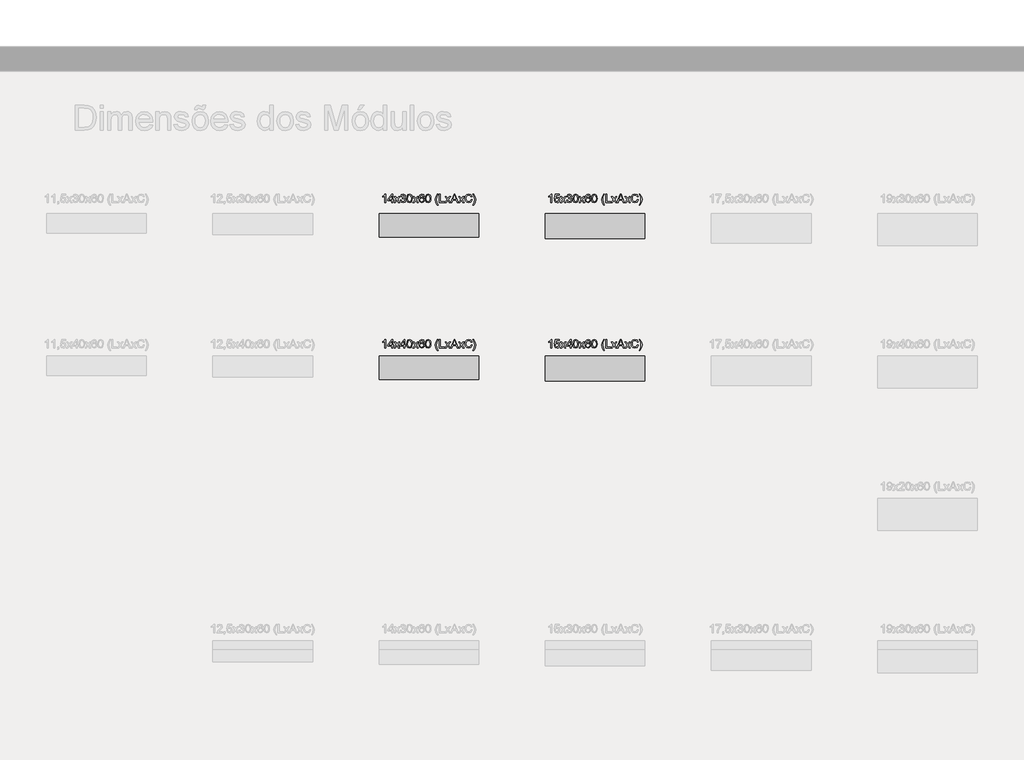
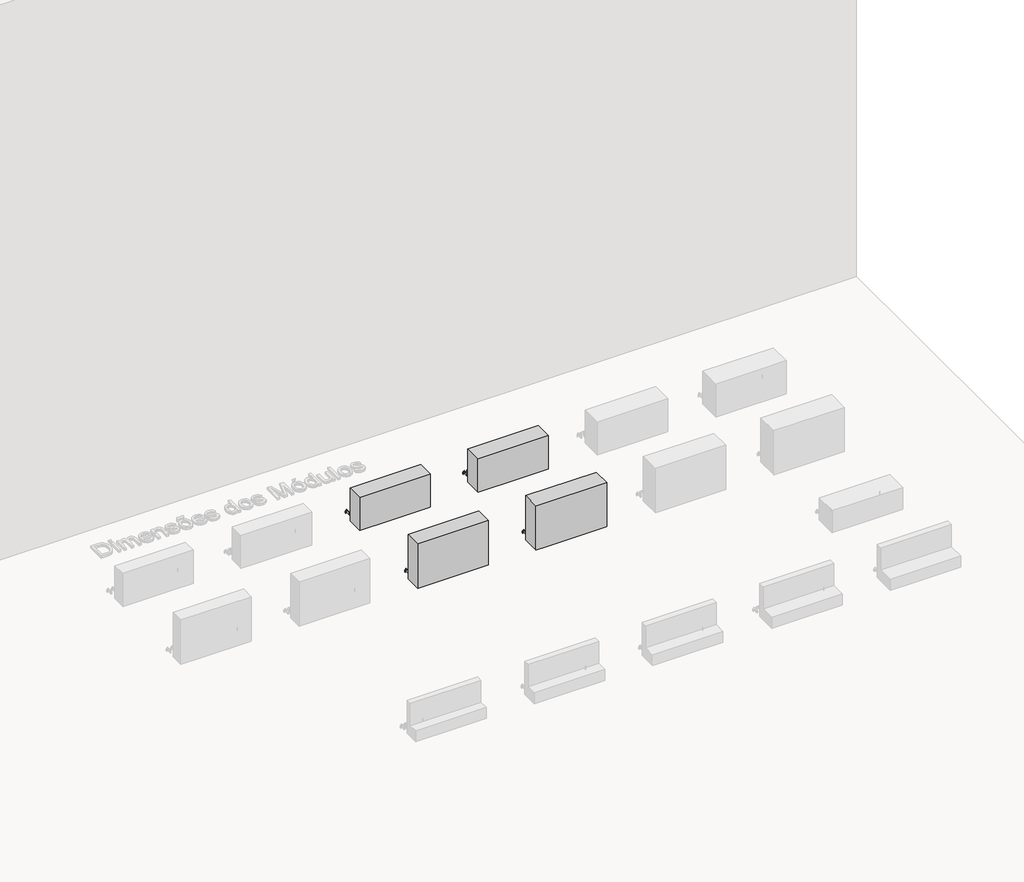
# One storey, part 21 of 26: 8 proxies.
"""IFC4 building model written with IfcOpenShell, lengths in millimetres."""

from ifc_helpers import new_model, si_unit, origin, origin_with_axes, place, context, project, spatial, polyline, outline, extrude, transform, mapped, element, save
from components import generic_models_90d30efc, generic_models_097b7d26, generic_models_fad3014b, generic_models_684ff88b

model = new_model("IFC4")

# Units and contexts
model_context = context("Model", 3, world=origin())
ifc_project = project(units=[si_unit("LENGTHUNIT", "METRE", prefix="MILLI")], contexts=[model_context])

# Site, building, storey
site = spatial("IfcSite", under=ifc_project)
building = spatial("IfcBuilding", under=site)
storey = spatial("IfcBuildingStorey", under=building, Name="Catálogo Celucon", Elevation=0.0)

# Proxies
placement = place(None, origin())
element("IfcBuildingElementProxy", 1, Name="Dimensões", ObjectType="Dimensões", at=placement, inside=storey, context=model_context, shape_type="SweptSolid", body=[
    extrude(outline(polyline([(-7758.0265226, 1418.4635097), (-7764.305042, 1418.4635097), (-7764.305042, 1457.606154), (-7770.2524676, 1453.3693797), (-7776.8620808, 1450.1994632), (-7776.8620808, 1456.134626), (-7767.6588995, 1462.0084752), (-7762.0732246, 1468.6916648), (-7758.0265226, 1468.6916648), (-7758.0265226, 1418.4635097)])), origin_with_axes(), (0.0, 0.0, 1.0), 20.0),
    extrude(outline(polyline([(-7722.7098511, 1418.4635097), (-7722.7098511, 1430.2357336), (-7745.4694838, 1430.2357336), (-7745.4694838, 1436.5142529), (-7721.1402212, 1467.9068499), (-7716.4313317, 1467.9068499), (-7716.4313317, 1436.5142529), (-7710.1528123, 1436.5142529), (-7710.1528123, 1430.2357336), (-7716.4313317, 1430.2357336), (-7716.4313317, 1418.4635097), (-7722.7098511, 1418.4635097)]), holes=[polyline([(-7722.7098511, 1436.5142529), (-7722.7098511, 1455.9138968), (-7737.7439619, 1436.5142529), (-7722.7098511, 1436.5142529)])]), origin_with_axes(), (0.0, 0.0, 1.0), 20.0),
    extrude(outline(polyline([(-7707.0135526, 1418.4635097), (-7693.5981225, 1437.0047623), (-7706.2287377, 1455.3498111), (-7698.6748941, 1455.3498111), (-7692.5803157, 1446.5206432), (-7689.7353616, 1442.3513139), (-7687.2705522, 1445.7603537), (-7680.3298452, 1455.3498111), (-7672.7760016, 1455.3498111), (-7686.0442789, 1437.0047623), (-7673.2665109, 1418.4635097), (-7680.8203546, 1418.4635097), (-7688.5090883, 1429.6103342), (-7689.9193026, 1431.6459479), (-7699.459709, 1418.4635097), (-7707.0135526, 1418.4635097)])), origin_with_axes(), (0.0, 0.0, 1.0), 20.0),
    extrude(outline(polyline([(-7669.3424363, 1431.8053634), (-7663.0639169, 1432.5901783), (-7659.5996948, 1425.9805651), (-7653.1188403, 1423.9572142), (-7645.4914203, 1426.7408546), (-7642.6587289, 1433.6325106), (-7645.4668948, 1440.1256279), (-7652.6038055, 1442.6946705), (-7657.0061267, 1442.0079574), (-7656.3071509, 1448.2864768), (-7648.1769589, 1450.0155222), (-7645.0131737, 1455.5582776), (-7647.3063048, 1460.4695022), (-7653.2169422, 1462.4131454), (-7659.201156, 1460.4511081), (-7662.279102, 1454.5649962), (-7668.5576214, 1455.3498111), (-7663.4195362, 1465.1967858), (-7653.4376714, 1468.6916648), (-7645.8654337, 1466.9687508), (-7640.5679329, 1462.2598612), (-7638.7346543, 1455.9261595), (-7640.4759624, 1450.1381495), (-7645.6263104, 1445.9810829), (-7638.7837052, 1441.6891263), (-7636.3802095, 1433.522146), (-7641.1872009, 1422.2894825), (-7653.3395695, 1417.6786948), (-7664.3515039, 1421.6150321), (-7669.3424363, 1431.8053634)])), origin_with_axes(), (0.0, 0.0, 1.0), 20.0),
    extrude(outline(polyline([(-7630.8865051, 1443.172917), (-7629.0409637, 1457.6245481), (-7623.559522, 1465.9570753), (-7614.4053917, 1468.6916648), (-7607.0722773, 1467.072984), (-7602.0077685, 1462.407014), (-7599.0647125, 1454.9757977), (-7597.9242783, 1443.172917), (-7599.7514256, 1428.7825997), (-7605.2144732, 1420.4316784), (-7614.4053917, 1417.6786948), (-7625.8833099, 1422.4611607), (-7629.6357063, 1430.9561691), (-7630.8865051, 1443.172917)]), holes=[polyline([(-7624.6079857, 1443.1851798), (-7621.6649297, 1427.5931146), (-7614.4053917, 1423.9572142), (-7607.1458537, 1427.6053773), (-7604.2027977, 1443.1851798), (-7607.0477518, 1458.5994354), (-7614.4789681, 1462.4131454), (-7621.5668279, 1459.0531565), (-7624.6079857, 1443.1851798)])]), origin_with_axes(), (0.0, 0.0, 1.0), 20.0),
    extrude(outline(polyline([(-7594.7850186, 1418.4635097), (-7581.3695885, 1437.0047623), (-7594.0002037, 1455.3498111), (-7586.4463601, 1455.3498111), (-7580.3517817, 1446.5206432), (-7577.5068276, 1442.3513139), (-7575.0420182, 1445.7603537), (-7568.1013112, 1455.3498111), (-7560.5474676, 1455.3498111), (-7573.8157449, 1437.0047623), (-7561.0379769, 1418.4635097), (-7568.5918206, 1418.4635097), (-7576.2805543, 1429.6103342), (-7577.6907686, 1431.6459479), (-7587.231175, 1418.4635097), (-7594.7850186, 1418.4635097)])), origin_with_axes(), (0.0, 0.0, 1.0), 20.0),
    extrude(outline(polyline([(-7524.9364905, 1455.3498111), (-7531.2150099, 1454.5649962), (-7533.5939801, 1459.8011832), (-7539.8847622, 1462.4131454), (-7545.5501449, 1460.8925665), (-7549.8359702, 1455.1842642), (-7551.6201979, 1443.9945202), (-7546.0835738, 1449.0038467), (-7539.2225746, 1450.6409215), (-7528.5539968, 1446.1650239), (-7524.1516755, 1434.6012666), (-7526.2240775, 1425.9376456), (-7531.9262484, 1419.806279), (-7540.1545423, 1417.6786948), (-7552.9507044, 1423.319552), (-7556.661714, 1430.7875565), (-7557.8987172, 1441.9098555), (-7556.5252911, 1454.4147777), (-7552.4050128, 1462.9649684), (-7546.7794839, 1467.2599907), (-7539.4923547, 1468.6916648), (-7529.5718036, 1465.1477349), (-7524.9364905, 1455.3498111)]), holes=[polyline([(-7551.6201979, 1434.6993684), (-7550.167064, 1429.2608463), (-7546.304303, 1425.3122462), (-7540.6450517, 1423.9572142), (-7533.2444922, 1426.7653801), (-7530.4301949, 1434.3928001), (-7533.207704, 1441.6952577), (-7540.9025691, 1444.3624022), (-7548.4993323, 1441.6952577), (-7551.6201979, 1434.6993684)])]), origin_with_axes(), (0.0, 0.0, 1.0), 20.0),
    extrude(outline(polyline([(-7518.6579711, 1443.172917), (-7516.8124297, 1457.6245481), (-7511.330988, 1465.9570753), (-7502.1768577, 1468.6916648), (-7494.8437433, 1467.072984), (-7489.7792345, 1462.407014), (-7486.8361785, 1454.9757977), (-7485.6957443, 1443.172917), (-7487.5228916, 1428.7825997), (-7492.9859392, 1420.4316784), (-7502.1768577, 1417.6786948), (-7513.654776, 1422.4611607), (-7517.4071723, 1430.9561691), (-7518.6579711, 1443.172917)]), holes=[polyline([(-7512.3794517, 1443.1851798), (-7509.4363957, 1427.5931146), (-7502.1768577, 1423.9572142), (-7494.9173197, 1427.6053773), (-7491.9742637, 1443.1851798), (-7494.8192178, 1458.5994354), (-7502.2504341, 1462.4131454), (-7509.3382939, 1459.0531565), (-7512.3794517, 1443.1851798)])]), origin_with_axes(), (0.0, 0.0, 1.0), 20.0),
    extrude(outline(polyline([(-7446.4549982, 1404.3368411), (-7455.3700052, 1419.0643836), (-7459.0120369, 1436.5510411), (-7456.2897102, 1451.8181439), (-7446.4549982, 1468.6916648), (-7441.7461086, 1468.6916648), (-7447.6199578, 1458.7465882), (-7451.151625, 1449.1080799), (-7452.7335176, 1436.5142529), (-7449.9866653, 1420.4194156), (-7441.7461086, 1404.3368411), (-7446.4549982, 1404.3368411)])), origin_with_axes(), (0.0, 0.0, 1.0), 20.0),
    extrude(outline(polyline([(-7434.6827743, 1418.4635097), (-7434.6827743, 1468.6916648), (-7428.4042549, 1468.6916648), (-7428.4042549, 1424.7420291), (-7403.2901774, 1424.7420291), (-7403.2901774, 1418.4635097), (-7434.6827743, 1418.4635097)])), origin_with_axes(), (0.0, 0.0, 1.0), 20.0),
    extrude(outline(polyline([(-7400.9357326, 1418.4635097), (-7387.5203025, 1437.0047623), (-7400.1509177, 1455.3498111), (-7392.5970741, 1455.3498111), (-7386.5024957, 1446.5206432), (-7383.6575416, 1442.3513139), (-7381.1927322, 1445.7603537), (-7374.2520252, 1455.3498111), (-7366.6981816, 1455.3498111), (-7379.9664589, 1437.0047623), (-7367.1886909, 1418.4635097), (-7374.7425346, 1418.4635097), (-7382.4312683, 1429.6103342), (-7383.8414826, 1431.6459479), (-7393.381889, 1418.4635097), (-7400.9357326, 1418.4635097)])), origin_with_axes(), (0.0, 0.0, 1.0), 20.0),
    extrude(outline(polyline([(-7366.7594953, 1418.4635097), (-7346.7099265, 1468.6916648), (-7341.3633749, 1468.6916648), (-7321.3138061, 1418.4635097), (-7327.9479448, 1418.4635097), (-7333.6991666, 1434.1598082), (-7354.3863975, 1434.1598082), (-7360.1253566, 1418.4635097), (-7366.7594953, 1418.4635097)]), holes=[polyline([(-7352.0810037, 1440.4383275), (-7335.9922977, 1440.4383275), (-7340.5172463, 1452.7868999), (-7344.0366507, 1462.4131454), (-7347.1636477, 1453.8660204), (-7352.0810037, 1440.4383275)])]), origin_with_axes(), (0.0, 0.0, 1.0), 20.0),
    extrude(outline(polyline([(-7319.3149806, 1418.4635097), (-7305.8995505, 1437.0047623), (-7318.5301657, 1455.3498111), (-7310.9763221, 1455.3498111), (-7304.8817437, 1446.5206432), (-7302.0367896, 1442.3513139), (-7299.5719802, 1445.7603537), (-7292.6312733, 1455.3498111), (-7285.0774296, 1455.3498111), (-7298.3457069, 1437.0047623), (-7285.5679389, 1418.4635097), (-7293.1217826, 1418.4635097), (-7300.8105163, 1429.6103342), (-7302.2207306, 1431.6459479), (-7311.761137, 1418.4635097), (-7319.3149806, 1418.4635097)])), origin_with_axes(), (0.0, 0.0, 1.0), 20.0),
    extrude(outline(polyline([(-7243.972748, 1436.3180492), (-7237.6942286, 1434.6993684), (-7245.1377077, 1422.0380964), (-7258.2833576, 1417.6786948), (-7271.3492998, 1420.97737), (-7279.0135081, 1430.5300391), (-7281.6438643, 1443.957732), (-7278.6701515, 1457.606154), (-7270.214997, 1466.453716), (-7258.1484676, 1469.4764797), (-7245.5730347, 1465.5646678), (-7238.4790436, 1454.5527334), (-7244.7575629, 1453.05668), (-7249.9079109, 1460.7760705), (-7258.3937222, 1463.1979603), (-7268.2161715, 1460.5124218), (-7273.7650583, 1453.3019346), (-7275.3653449, 1443.9699947), (-7273.4707527, 1433.154264), (-7267.572378, 1426.2442139), (-7258.908757, 1423.9572142), (-7249.3009056, 1427.0719484), (-7243.972748, 1436.3180492)])), origin_with_axes(), (0.0, 0.0, 1.0), 20.0),
    extrude(outline(polyline([(-7228.2764496, 1404.3368411), (-7232.9853391, 1404.3368411), (-7224.7447824, 1420.4194156), (-7221.9979302, 1436.5142529), (-7223.5798228, 1448.9977153), (-7227.0747017, 1458.6484863), (-7232.9853391, 1468.6916648), (-7228.2764496, 1468.6916648), (-7218.4417376, 1451.8181439), (-7215.7194108, 1436.5510411), (-7219.3798366, 1419.0643836), (-7228.2764496, 1404.3368411)])), origin_with_axes(), (0.0, 0.0, 1.0), 20.0),
])
element("IfcBuildingElementProxy", 2, Name="Dimensões", ObjectType="Dimensões", at=placement, inside=storey, context=model_context, shape_type="SweptSolid", body=[
    extrude(outline(polyline([(-6758.0265226, 1418.4635097), (-6764.305042, 1418.4635097), (-6764.305042, 1457.606154), (-6770.2524676, 1453.3693797), (-6776.8620808, 1450.1994632), (-6776.8620808, 1456.134626), (-6767.6588995, 1462.0084752), (-6762.0732246, 1468.6916648), (-6758.0265226, 1468.6916648), (-6758.0265226, 1418.4635097)])), origin_with_axes(), (0.0, 0.0, 1.0), 20.0),
    extrude(outline(polyline([(-6743.1150391, 1431.8053634), (-6736.8365197, 1432.5901783), (-6733.6727345, 1426.1215866), (-6727.1121723, 1423.9572142), (-6719.2394976, 1426.9677152), (-6716.4313317, 1434.9568858), (-6719.061688, 1442.4126276), (-6727.0140704, 1445.1472171), (-6732.526169, 1444.0558338), (-6736.0517048, 1441.2231425), (-6742.3302242, 1442.0079574), (-6736.8365197, 1467.9068499), (-6712.5072571, 1467.9068499), (-6712.5072571, 1461.6283305), (-6731.7597482, 1461.6283305), (-6734.4452867, 1447.7959675), (-6725.2604996, 1451.4257365), (-6714.5244767, 1446.9253134), (-6710.1528123, 1435.3492933), (-6714.0891497, 1423.6996968), (-6719.7422697, 1419.1839453), (-6727.1366978, 1417.6786948), (-6738.2160772, 1421.5475871), (-6743.1150391, 1431.8053634)])), origin_with_axes(), (0.0, 0.0, 1.0), 20.0),
    extrude(outline(polyline([(-6707.0135526, 1418.4635097), (-6693.5981225, 1437.0047623), (-6706.2287377, 1455.3498111), (-6698.6748941, 1455.3498111), (-6692.5803157, 1446.5206432), (-6689.7353616, 1442.3513139), (-6687.2705522, 1445.7603537), (-6680.3298452, 1455.3498111), (-6672.7760016, 1455.3498111), (-6686.0442789, 1437.0047623), (-6673.2665109, 1418.4635097), (-6680.8203546, 1418.4635097), (-6688.5090883, 1429.6103342), (-6689.9193026, 1431.6459479), (-6699.459709, 1418.4635097), (-6707.0135526, 1418.4635097)])), origin_with_axes(), (0.0, 0.0, 1.0), 20.0),
    extrude(outline(polyline([(-6669.3424363, 1431.8053634), (-6663.0639169, 1432.5901783), (-6659.5996948, 1425.9805651), (-6653.1188403, 1423.9572142), (-6645.4914203, 1426.7408546), (-6642.6587289, 1433.6325106), (-6645.4668948, 1440.1256279), (-6652.6038055, 1442.6946705), (-6657.0061267, 1442.0079574), (-6656.3071509, 1448.2864768), (-6648.1769589, 1450.0155222), (-6645.0131737, 1455.5582776), (-6647.3063048, 1460.4695022), (-6653.2169422, 1462.4131454), (-6659.201156, 1460.4511081), (-6662.279102, 1454.5649962), (-6668.5576214, 1455.3498111), (-6663.4195362, 1465.1967858), (-6653.4376714, 1468.6916648), (-6645.8654337, 1466.9687508), (-6640.5679329, 1462.2598612), (-6638.7346543, 1455.9261595), (-6640.4759624, 1450.1381495), (-6645.6263104, 1445.9810829), (-6638.7837052, 1441.6891263), (-6636.3802095, 1433.522146), (-6641.1872009, 1422.2894825), (-6653.3395695, 1417.6786948), (-6664.3515039, 1421.6150321), (-6669.3424363, 1431.8053634)])), origin_with_axes(), (0.0, 0.0, 1.0), 20.0),
    extrude(outline(polyline([(-6630.8865051, 1443.172917), (-6629.0409637, 1457.6245481), (-6623.559522, 1465.9570753), (-6614.4053917, 1468.6916648), (-6607.0722773, 1467.072984), (-6602.0077685, 1462.407014), (-6599.0647125, 1454.9757977), (-6597.9242783, 1443.172917), (-6599.7514256, 1428.7825997), (-6605.2144732, 1420.4316784), (-6614.4053917, 1417.6786948), (-6625.8833099, 1422.4611607), (-6629.6357063, 1430.9561691), (-6630.8865051, 1443.172917)]), holes=[polyline([(-6624.6079857, 1443.1851798), (-6621.6649297, 1427.5931146), (-6614.4053917, 1423.9572142), (-6607.1458537, 1427.6053773), (-6604.2027977, 1443.1851798), (-6607.0477518, 1458.5994354), (-6614.4789681, 1462.4131454), (-6621.5668279, 1459.0531565), (-6624.6079857, 1443.1851798)])]), origin_with_axes(), (0.0, 0.0, 1.0), 20.0),
    extrude(outline(polyline([(-6594.7850186, 1418.4635097), (-6581.3695885, 1437.0047623), (-6594.0002037, 1455.3498111), (-6586.4463601, 1455.3498111), (-6580.3517817, 1446.5206432), (-6577.5068276, 1442.3513139), (-6575.0420182, 1445.7603537), (-6568.1013112, 1455.3498111), (-6560.5474676, 1455.3498111), (-6573.8157449, 1437.0047623), (-6561.0379769, 1418.4635097), (-6568.5918206, 1418.4635097), (-6576.2805543, 1429.6103342), (-6577.6907686, 1431.6459479), (-6587.231175, 1418.4635097), (-6594.7850186, 1418.4635097)])), origin_with_axes(), (0.0, 0.0, 1.0), 20.0),
    extrude(outline(polyline([(-6524.9364905, 1455.3498111), (-6531.2150099, 1454.5649962), (-6533.5939801, 1459.8011832), (-6539.8847622, 1462.4131454), (-6545.5501449, 1460.8925665), (-6549.8359702, 1455.1842642), (-6551.6201979, 1443.9945202), (-6546.0835738, 1449.0038467), (-6539.2225746, 1450.6409215), (-6528.5539968, 1446.1650239), (-6524.1516755, 1434.6012666), (-6526.2240775, 1425.9376456), (-6531.9262484, 1419.806279), (-6540.1545423, 1417.6786948), (-6552.9507044, 1423.319552), (-6556.661714, 1430.7875565), (-6557.8987172, 1441.9098555), (-6556.5252911, 1454.4147777), (-6552.4050128, 1462.9649684), (-6546.7794839, 1467.2599907), (-6539.4923547, 1468.6916648), (-6529.5718036, 1465.1477349), (-6524.9364905, 1455.3498111)]), holes=[polyline([(-6551.6201979, 1434.6993684), (-6550.167064, 1429.2608463), (-6546.304303, 1425.3122462), (-6540.6450517, 1423.9572142), (-6533.2444922, 1426.7653801), (-6530.4301949, 1434.3928001), (-6533.207704, 1441.6952577), (-6540.9025691, 1444.3624022), (-6548.4993323, 1441.6952577), (-6551.6201979, 1434.6993684)])]), origin_with_axes(), (0.0, 0.0, 1.0), 20.0),
    extrude(outline(polyline([(-6518.6579711, 1443.172917), (-6516.8124297, 1457.6245481), (-6511.330988, 1465.9570753), (-6502.1768577, 1468.6916648), (-6494.8437433, 1467.072984), (-6489.7792345, 1462.407014), (-6486.8361785, 1454.9757977), (-6485.6957443, 1443.172917), (-6487.5228916, 1428.7825997), (-6492.9859392, 1420.4316784), (-6502.1768577, 1417.6786948), (-6513.654776, 1422.4611607), (-6517.4071723, 1430.9561691), (-6518.6579711, 1443.172917)]), holes=[polyline([(-6512.3794517, 1443.1851798), (-6509.4363957, 1427.5931146), (-6502.1768577, 1423.9572142), (-6494.9173197, 1427.6053773), (-6491.9742637, 1443.1851798), (-6494.8192178, 1458.5994354), (-6502.2504341, 1462.4131454), (-6509.3382939, 1459.0531565), (-6512.3794517, 1443.1851798)])]), origin_with_axes(), (0.0, 0.0, 1.0), 20.0),
    extrude(outline(polyline([(-6446.4549982, 1404.3368411), (-6455.3700052, 1419.0643836), (-6459.0120369, 1436.5510411), (-6456.2897102, 1451.8181439), (-6446.4549982, 1468.6916648), (-6441.7461086, 1468.6916648), (-6447.6199578, 1458.7465882), (-6451.151625, 1449.1080799), (-6452.7335176, 1436.5142529), (-6449.9866653, 1420.4194156), (-6441.7461086, 1404.3368411), (-6446.4549982, 1404.3368411)])), origin_with_axes(), (0.0, 0.0, 1.0), 20.0),
    extrude(outline(polyline([(-6434.6827743, 1418.4635097), (-6434.6827743, 1468.6916648), (-6428.4042549, 1468.6916648), (-6428.4042549, 1424.7420291), (-6403.2901774, 1424.7420291), (-6403.2901774, 1418.4635097), (-6434.6827743, 1418.4635097)])), origin_with_axes(), (0.0, 0.0, 1.0), 20.0),
    extrude(outline(polyline([(-6366.7594953, 1418.4635097), (-6346.7099265, 1468.6916648), (-6341.3633749, 1468.6916648), (-6321.3138061, 1418.4635097), (-6327.9479448, 1418.4635097), (-6333.6991666, 1434.1598082), (-6354.3863975, 1434.1598082), (-6360.1253566, 1418.4635097), (-6366.7594953, 1418.4635097)]), holes=[polyline([(-6352.0810037, 1440.4383275), (-6335.9922977, 1440.4383275), (-6340.5172463, 1452.7868999), (-6344.0366507, 1462.4131454), (-6347.1636477, 1453.8660204), (-6352.0810037, 1440.4383275)])]), origin_with_axes(), (0.0, 0.0, 1.0), 20.0),
    extrude(outline(polyline([(-6400.9357326, 1418.4635097), (-6387.5203025, 1437.0047623), (-6400.1509177, 1455.3498111), (-6392.5970741, 1455.3498111), (-6386.5024957, 1446.5206432), (-6383.6575416, 1442.3513139), (-6381.1927322, 1445.7603537), (-6374.2520252, 1455.3498111), (-6366.6981816, 1455.3498111), (-6379.9664589, 1437.0047623), (-6367.1886909, 1418.4635097), (-6374.7425346, 1418.4635097), (-6382.4312683, 1429.6103342), (-6383.8414826, 1431.6459479), (-6393.381889, 1418.4635097), (-6400.9357326, 1418.4635097)])), origin_with_axes(), (0.0, 0.0, 1.0), 20.0),
    extrude(outline(polyline([(-6319.3149806, 1418.4635097), (-6305.8995505, 1437.0047623), (-6318.5301657, 1455.3498111), (-6310.9763221, 1455.3498111), (-6304.8817437, 1446.5206432), (-6302.0367896, 1442.3513139), (-6299.5719802, 1445.7603537), (-6292.6312733, 1455.3498111), (-6285.0774296, 1455.3498111), (-6298.3457069, 1437.0047623), (-6285.5679389, 1418.4635097), (-6293.1217826, 1418.4635097), (-6300.8105163, 1429.6103342), (-6302.2207306, 1431.6459479), (-6311.761137, 1418.4635097), (-6319.3149806, 1418.4635097)])), origin_with_axes(), (0.0, 0.0, 1.0), 20.0),
    extrude(outline(polyline([(-6243.972748, 1436.3180492), (-6237.6942286, 1434.6993684), (-6245.1377077, 1422.0380964), (-6258.2833576, 1417.6786948), (-6271.3492998, 1420.97737), (-6279.0135081, 1430.5300391), (-6281.6438643, 1443.957732), (-6278.6701515, 1457.606154), (-6270.214997, 1466.453716), (-6258.1484676, 1469.4764797), (-6245.5730347, 1465.5646678), (-6238.4790436, 1454.5527334), (-6244.7575629, 1453.05668), (-6249.9079109, 1460.7760705), (-6258.3937222, 1463.1979603), (-6268.2161715, 1460.5124218), (-6273.7650583, 1453.3019346), (-6275.3653449, 1443.9699947), (-6273.4707527, 1433.154264), (-6267.572378, 1426.2442139), (-6258.908757, 1423.9572142), (-6249.3009056, 1427.0719484), (-6243.972748, 1436.3180492)])), origin_with_axes(), (0.0, 0.0, 1.0), 20.0),
    extrude(outline(polyline([(-6228.2764496, 1404.3368411), (-6232.9853391, 1404.3368411), (-6224.7447824, 1420.4194156), (-6221.9979302, 1436.5142529), (-6223.5798228, 1448.9977153), (-6227.0747017, 1458.6484863), (-6232.9853391, 1468.6916648), (-6228.2764496, 1468.6916648), (-6218.4417376, 1451.8181439), (-6215.7194108, 1436.5510411), (-6219.3798366, 1419.0643836), (-6228.2764496, 1404.3368411)])), origin_with_axes(), (0.0, 0.0, 1.0), 20.0),
])
element("IfcBuildingElementProxy", 3, Name="Dimensões", ObjectType="Dimensões", at=placement, inside=storey, context=model_context, shape_type="SweptSolid", body=[
    extrude(outline(polyline([(-7758.0265226, 543.1811307), (-7764.305042, 543.1811307), (-7764.305042, 582.323775), (-7770.2524676, 578.0870007), (-7776.8620808, 574.9170841), (-7776.8620808, 580.852247), (-7767.6588995, 586.7260962), (-7762.0732246, 593.4092858), (-7758.0265226, 593.4092858), (-7758.0265226, 543.1811307)])), origin_with_axes(), (0.0, 0.0, 1.0), 20.0),
    extrude(outline(polyline([(-7722.7098511, 543.1811307), (-7722.7098511, 554.9533545), (-7745.4694838, 554.9533545), (-7745.4694838, 561.2318739), (-7721.1402212, 592.6244708), (-7716.4313317, 592.6244708), (-7716.4313317, 561.2318739), (-7710.1528123, 561.2318739), (-7710.1528123, 554.9533545), (-7716.4313317, 554.9533545), (-7716.4313317, 543.1811307), (-7722.7098511, 543.1811307)]), holes=[polyline([(-7722.7098511, 561.2318739), (-7722.7098511, 580.6315178), (-7737.7439619, 561.2318739), (-7722.7098511, 561.2318739)])]), origin_with_axes(), (0.0, 0.0, 1.0), 20.0),
    extrude(outline(polyline([(-7707.0135526, 543.1811307), (-7693.5981225, 561.7223832), (-7706.2287377, 580.0674321), (-7698.6748941, 580.0674321), (-7692.5803157, 571.2382642), (-7689.7353616, 567.0689349), (-7687.2705522, 570.4779747), (-7680.3298452, 580.0674321), (-7672.7760016, 580.0674321), (-7686.0442789, 561.7223832), (-7673.2665109, 543.1811307), (-7680.8203546, 543.1811307), (-7688.5090883, 554.3279551), (-7689.9193026, 556.3635688), (-7699.459709, 543.1811307), (-7707.0135526, 543.1811307)])), origin_with_axes(), (0.0, 0.0, 1.0), 20.0),
    extrude(outline(polyline([(-7648.9372483, 543.1811307), (-7648.9372483, 554.9533545), (-7671.6968811, 554.9533545), (-7671.6968811, 561.2318739), (-7647.3676185, 592.6244708), (-7642.6587289, 592.6244708), (-7642.6587289, 561.2318739), (-7636.3802095, 561.2318739), (-7636.3802095, 554.9533545), (-7642.6587289, 554.9533545), (-7642.6587289, 543.1811307), (-7648.9372483, 543.1811307)]), holes=[polyline([(-7648.9372483, 561.2318739), (-7648.9372483, 580.6315178), (-7663.9713592, 561.2318739), (-7648.9372483, 561.2318739)])]), origin_with_axes(), (0.0, 0.0, 1.0), 20.0),
    extrude(outline(polyline([(-7630.8865051, 567.890538), (-7629.0409637, 582.3421691), (-7623.559522, 590.6746963), (-7614.4053917, 593.4092858), (-7607.0722773, 591.790605), (-7602.0077685, 587.124635), (-7599.0647125, 579.6934187), (-7597.9242783, 567.890538), (-7599.7514256, 553.5002207), (-7605.2144732, 545.1492994), (-7614.4053917, 542.3963158), (-7625.8833099, 547.1787817), (-7629.6357063, 555.6737901), (-7630.8865051, 567.890538)]), holes=[polyline([(-7624.6079857, 567.9028008), (-7621.6649297, 552.3107355), (-7614.4053917, 548.6748351), (-7607.1458537, 552.3229983), (-7604.2027977, 567.9028008), (-7607.0477518, 583.3170564), (-7614.4789681, 587.1307664), (-7621.5668279, 583.7707775), (-7624.6079857, 567.9028008)])]), origin_with_axes(), (0.0, 0.0, 1.0), 20.0),
    extrude(outline(polyline([(-7594.7850186, 543.1811307), (-7581.3695885, 561.7223832), (-7594.0002037, 580.0674321), (-7586.4463601, 580.0674321), (-7580.3517817, 571.2382642), (-7577.5068276, 567.0689349), (-7575.0420182, 570.4779747), (-7568.1013112, 580.0674321), (-7560.5474676, 580.0674321), (-7573.8157449, 561.7223832), (-7561.0379769, 543.1811307), (-7568.5918206, 543.1811307), (-7576.2805543, 554.3279551), (-7577.6907686, 556.3635688), (-7587.231175, 543.1811307), (-7594.7850186, 543.1811307)])), origin_with_axes(), (0.0, 0.0, 1.0), 20.0),
    extrude(outline(polyline([(-7524.9364905, 580.0674321), (-7531.2150099, 579.2826171), (-7533.5939801, 584.5188042), (-7539.8847622, 587.1307664), (-7545.5501449, 585.6101875), (-7549.8359702, 579.9018852), (-7551.6201979, 568.7121412), (-7546.0835738, 573.7214677), (-7539.2225746, 575.3585425), (-7528.5539968, 570.8826449), (-7524.1516755, 559.3188875), (-7526.2240775, 550.6552666), (-7531.9262484, 544.5239), (-7540.1545423, 542.3963158), (-7552.9507044, 548.037173), (-7556.661714, 555.5051775), (-7557.8987172, 566.6274765), (-7556.5252911, 579.1323987), (-7552.4050128, 587.6825894), (-7546.7794839, 591.9776117), (-7539.4923547, 593.4092858), (-7529.5718036, 589.8653559), (-7524.9364905, 580.0674321)]), holes=[polyline([(-7551.6201979, 559.4169894), (-7550.167064, 553.9784672), (-7546.304303, 550.0298672), (-7540.6450517, 548.6748351), (-7533.2444922, 551.483001), (-7530.4301949, 559.1104211), (-7533.207704, 566.4128787), (-7540.9025691, 569.0800231), (-7548.4993323, 566.4128787), (-7551.6201979, 559.4169894)])]), origin_with_axes(), (0.0, 0.0, 1.0), 20.0),
    extrude(outline(polyline([(-7518.6579711, 567.890538), (-7516.8124297, 582.3421691), (-7511.330988, 590.6746963), (-7502.1768577, 593.4092858), (-7494.8437433, 591.790605), (-7489.7792345, 587.124635), (-7486.8361785, 579.6934187), (-7485.6957443, 567.890538), (-7487.5228916, 553.5002207), (-7492.9859392, 545.1492994), (-7502.1768577, 542.3963158), (-7513.654776, 547.1787817), (-7517.4071723, 555.6737901), (-7518.6579711, 567.890538)]), holes=[polyline([(-7512.3794517, 567.9028008), (-7509.4363957, 552.3107355), (-7502.1768577, 548.6748351), (-7494.9173197, 552.3229983), (-7491.9742637, 567.9028008), (-7494.8192178, 583.3170564), (-7502.2504341, 587.1307664), (-7509.3382939, 583.7707775), (-7512.3794517, 567.9028008)])]), origin_with_axes(), (0.0, 0.0, 1.0), 20.0),
    extrude(outline(polyline([(-7446.4549982, 529.0544621), (-7455.3700052, 543.7820046), (-7459.0120369, 561.2686621), (-7456.2897102, 576.5357649), (-7446.4549982, 593.4092858), (-7441.7461086, 593.4092858), (-7447.6199578, 583.4642092), (-7451.151625, 573.8257009), (-7452.7335176, 561.2318739), (-7449.9866653, 545.1370366), (-7441.7461086, 529.0544621), (-7446.4549982, 529.0544621)])), origin_with_axes(), (0.0, 0.0, 1.0), 20.0),
    extrude(outline(polyline([(-7434.6827743, 543.1811307), (-7434.6827743, 593.4092858), (-7428.4042549, 593.4092858), (-7428.4042549, 549.4596501), (-7403.2901774, 549.4596501), (-7403.2901774, 543.1811307), (-7434.6827743, 543.1811307)])), origin_with_axes(), (0.0, 0.0, 1.0), 20.0),
    extrude(outline(polyline([(-7366.7594953, 543.1811307), (-7346.7099265, 593.4092858), (-7341.3633749, 593.4092858), (-7321.3138061, 543.1811307), (-7327.9479448, 543.1811307), (-7333.6991666, 558.8774291), (-7354.3863975, 558.8774291), (-7360.1253566, 543.1811307), (-7366.7594953, 543.1811307)]), holes=[polyline([(-7352.0810037, 565.1559485), (-7335.9922977, 565.1559485), (-7340.5172463, 577.5045208), (-7344.0366507, 587.1307664), (-7347.1636477, 578.5836414), (-7352.0810037, 565.1559485)])]), origin_with_axes(), (0.0, 0.0, 1.0), 20.0),
    extrude(outline(polyline([(-7400.9357326, 543.1811307), (-7387.5203025, 561.7223832), (-7400.1509177, 580.0674321), (-7392.5970741, 580.0674321), (-7386.5024957, 571.2382642), (-7383.6575416, 567.0689349), (-7381.1927322, 570.4779747), (-7374.2520252, 580.0674321), (-7366.6981816, 580.0674321), (-7379.9664589, 561.7223832), (-7367.1886909, 543.1811307), (-7374.7425346, 543.1811307), (-7382.4312683, 554.3279551), (-7383.8414826, 556.3635688), (-7393.381889, 543.1811307), (-7400.9357326, 543.1811307)])), origin_with_axes(), (0.0, 0.0, 1.0), 20.0),
    extrude(outline(polyline([(-7319.3149806, 543.1811307), (-7305.8995505, 561.7223832), (-7318.5301657, 580.0674321), (-7310.9763221, 580.0674321), (-7304.8817437, 571.2382642), (-7302.0367896, 567.0689349), (-7299.5719802, 570.4779747), (-7292.6312733, 580.0674321), (-7285.0774296, 580.0674321), (-7298.3457069, 561.7223832), (-7285.5679389, 543.1811307), (-7293.1217826, 543.1811307), (-7300.8105163, 554.3279551), (-7302.2207306, 556.3635688), (-7311.761137, 543.1811307), (-7319.3149806, 543.1811307)])), origin_with_axes(), (0.0, 0.0, 1.0), 20.0),
    extrude(outline(polyline([(-7243.972748, 561.0356702), (-7237.6942286, 559.4169894), (-7245.1377077, 546.7557174), (-7258.2833576, 542.3963158), (-7271.3492998, 545.694991), (-7279.0135081, 555.2476601), (-7281.6438643, 568.675353), (-7278.6701515, 582.323775), (-7270.214997, 591.171337), (-7258.1484676, 594.1941007), (-7245.5730347, 590.2822888), (-7238.4790436, 579.2703544), (-7244.7575629, 577.774301), (-7249.9079109, 585.4936915), (-7258.3937222, 587.9155813), (-7268.2161715, 585.2300427), (-7273.7650583, 578.0195556), (-7275.3653449, 568.6876157), (-7273.4707527, 557.871885), (-7267.572378, 550.9618349), (-7258.908757, 548.6748351), (-7249.3009056, 551.7895694), (-7243.972748, 561.0356702)])), origin_with_axes(), (0.0, 0.0, 1.0), 20.0),
    extrude(outline(polyline([(-7228.2764496, 529.0544621), (-7232.9853391, 529.0544621), (-7224.7447824, 545.1370366), (-7221.9979302, 561.2318739), (-7223.5798228, 573.7153363), (-7227.0747017, 583.3661073), (-7232.9853391, 593.4092858), (-7228.2764496, 593.4092858), (-7218.4417376, 576.5357649), (-7215.7194108, 561.2686621), (-7219.3798366, 543.7820046), (-7228.2764496, 529.0544621)])), origin_with_axes(), (0.0, 0.0, 1.0), 20.0),
])
element("IfcBuildingElementProxy", 4, Name="Dimensões", ObjectType="Dimensões", at=placement, inside=storey, context=model_context, shape_type="SweptSolid", body=[
    extrude(outline(polyline([(-6758.0265226, 543.1811307), (-6764.305042, 543.1811307), (-6764.305042, 582.323775), (-6770.2524676, 578.0870007), (-6776.8620808, 574.9170841), (-6776.8620808, 580.852247), (-6767.6588995, 586.7260962), (-6762.0732246, 593.4092858), (-6758.0265226, 593.4092858), (-6758.0265226, 543.1811307)])), origin_with_axes(), (0.0, 0.0, 1.0), 20.0),
    extrude(outline(polyline([(-6743.1150391, 556.5229844), (-6736.8365197, 557.3077993), (-6733.6727345, 550.8392076), (-6727.1121723, 548.6748351), (-6719.2394976, 551.6853361), (-6716.4313317, 559.6745068), (-6719.061688, 567.1302486), (-6727.0140704, 569.8648381), (-6732.526169, 568.7734548), (-6736.0517048, 565.9407635), (-6742.3302242, 566.7255784), (-6736.8365197, 592.6244708), (-6712.5072571, 592.6244708), (-6712.5072571, 586.3459515), (-6731.7597482, 586.3459515), (-6734.4452867, 572.5135884), (-6725.2604996, 576.1433575), (-6714.5244767, 571.6429344), (-6710.1528123, 560.0669143), (-6714.0891497, 548.4173178), (-6719.7422697, 543.9015663), (-6727.1366978, 542.3963158), (-6738.2160772, 546.2652081), (-6743.1150391, 556.5229844)])), origin_with_axes(), (0.0, 0.0, 1.0), 20.0),
    extrude(outline(polyline([(-6707.0135526, 543.1811307), (-6693.5981225, 561.7223832), (-6706.2287377, 580.0674321), (-6698.6748941, 580.0674321), (-6692.5803157, 571.2382642), (-6689.7353616, 567.0689349), (-6687.2705522, 570.4779747), (-6680.3298452, 580.0674321), (-6672.7760016, 580.0674321), (-6686.0442789, 561.7223832), (-6673.2665109, 543.1811307), (-6680.8203546, 543.1811307), (-6688.5090883, 554.3279551), (-6689.9193026, 556.3635688), (-6699.459709, 543.1811307), (-6707.0135526, 543.1811307)])), origin_with_axes(), (0.0, 0.0, 1.0), 20.0),
    extrude(outline(polyline([(-6648.9372483, 543.1811307), (-6648.9372483, 554.9533545), (-6671.6968811, 554.9533545), (-6671.6968811, 561.2318739), (-6647.3676185, 592.6244708), (-6642.6587289, 592.6244708), (-6642.6587289, 561.2318739), (-6636.3802095, 561.2318739), (-6636.3802095, 554.9533545), (-6642.6587289, 554.9533545), (-6642.6587289, 543.1811307), (-6648.9372483, 543.1811307)]), holes=[polyline([(-6648.9372483, 561.2318739), (-6648.9372483, 580.6315178), (-6663.9713592, 561.2318739), (-6648.9372483, 561.2318739)])]), origin_with_axes(), (0.0, 0.0, 1.0), 20.0),
    extrude(outline(polyline([(-6630.8865051, 567.890538), (-6629.0409637, 582.3421691), (-6623.559522, 590.6746963), (-6614.4053917, 593.4092858), (-6607.0722773, 591.790605), (-6602.0077685, 587.124635), (-6599.0647125, 579.6934187), (-6597.9242783, 567.890538), (-6599.7514256, 553.5002207), (-6605.2144732, 545.1492994), (-6614.4053917, 542.3963158), (-6625.8833099, 547.1787817), (-6629.6357063, 555.6737901), (-6630.8865051, 567.890538)]), holes=[polyline([(-6624.6079857, 567.9028008), (-6621.6649297, 552.3107355), (-6614.4053917, 548.6748351), (-6607.1458537, 552.3229983), (-6604.2027977, 567.9028008), (-6607.0477518, 583.3170564), (-6614.4789681, 587.1307664), (-6621.5668279, 583.7707775), (-6624.6079857, 567.9028008)])]), origin_with_axes(), (0.0, 0.0, 1.0), 20.0),
    extrude(outline(polyline([(-6594.7850186, 543.1811307), (-6581.3695885, 561.7223832), (-6594.0002037, 580.0674321), (-6586.4463601, 580.0674321), (-6580.3517817, 571.2382642), (-6577.5068276, 567.0689349), (-6575.0420182, 570.4779747), (-6568.1013112, 580.0674321), (-6560.5474676, 580.0674321), (-6573.8157449, 561.7223832), (-6561.0379769, 543.1811307), (-6568.5918206, 543.1811307), (-6576.2805543, 554.3279551), (-6577.6907686, 556.3635688), (-6587.231175, 543.1811307), (-6594.7850186, 543.1811307)])), origin_with_axes(), (0.0, 0.0, 1.0), 20.0),
    extrude(outline(polyline([(-6524.9364905, 580.0674321), (-6531.2150099, 579.2826171), (-6533.5939801, 584.5188042), (-6539.8847622, 587.1307664), (-6545.5501449, 585.6101875), (-6549.8359702, 579.9018852), (-6551.6201979, 568.7121412), (-6546.0835738, 573.7214677), (-6539.2225746, 575.3585425), (-6528.5539968, 570.8826449), (-6524.1516755, 559.3188875), (-6526.2240775, 550.6552666), (-6531.9262484, 544.5239), (-6540.1545423, 542.3963158), (-6552.9507044, 548.037173), (-6556.661714, 555.5051775), (-6557.8987172, 566.6274765), (-6556.5252911, 579.1323987), (-6552.4050128, 587.6825894), (-6546.7794839, 591.9776117), (-6539.4923547, 593.4092858), (-6529.5718036, 589.8653559), (-6524.9364905, 580.0674321)]), holes=[polyline([(-6551.6201979, 559.4169894), (-6550.167064, 553.9784672), (-6546.304303, 550.0298672), (-6540.6450517, 548.6748351), (-6533.2444922, 551.483001), (-6530.4301949, 559.1104211), (-6533.207704, 566.4128787), (-6540.9025691, 569.0800231), (-6548.4993323, 566.4128787), (-6551.6201979, 559.4169894)])]), origin_with_axes(), (0.0, 0.0, 1.0), 20.0),
    extrude(outline(polyline([(-6518.6579711, 567.890538), (-6516.8124297, 582.3421691), (-6511.330988, 590.6746963), (-6502.1768577, 593.4092858), (-6494.8437433, 591.790605), (-6489.7792345, 587.124635), (-6486.8361785, 579.6934187), (-6485.6957443, 567.890538), (-6487.5228916, 553.5002207), (-6492.9859392, 545.1492994), (-6502.1768577, 542.3963158), (-6513.654776, 547.1787817), (-6517.4071723, 555.6737901), (-6518.6579711, 567.890538)]), holes=[polyline([(-6512.3794517, 567.9028008), (-6509.4363957, 552.3107355), (-6502.1768577, 548.6748351), (-6494.9173197, 552.3229983), (-6491.9742637, 567.9028008), (-6494.8192178, 583.3170564), (-6502.2504341, 587.1307664), (-6509.3382939, 583.7707775), (-6512.3794517, 567.9028008)])]), origin_with_axes(), (0.0, 0.0, 1.0), 20.0),
    extrude(outline(polyline([(-6446.4549982, 529.0544621), (-6455.3700052, 543.7820046), (-6459.0120369, 561.2686621), (-6456.2897102, 576.5357649), (-6446.4549982, 593.4092858), (-6441.7461086, 593.4092858), (-6447.6199578, 583.4642092), (-6451.151625, 573.8257009), (-6452.7335176, 561.2318739), (-6449.9866653, 545.1370366), (-6441.7461086, 529.0544621), (-6446.4549982, 529.0544621)])), origin_with_axes(), (0.0, 0.0, 1.0), 20.0),
    extrude(outline(polyline([(-6434.6827743, 543.1811307), (-6434.6827743, 593.4092858), (-6428.4042549, 593.4092858), (-6428.4042549, 549.4596501), (-6403.2901774, 549.4596501), (-6403.2901774, 543.1811307), (-6434.6827743, 543.1811307)])), origin_with_axes(), (0.0, 0.0, 1.0), 20.0),
    extrude(outline(polyline([(-6400.9357326, 543.1811307), (-6387.5203025, 561.7223832), (-6400.1509177, 580.0674321), (-6392.5970741, 580.0674321), (-6386.5024957, 571.2382642), (-6383.6575416, 567.0689349), (-6381.1927322, 570.4779747), (-6374.2520252, 580.0674321), (-6366.6981816, 580.0674321), (-6379.9664589, 561.7223832), (-6367.1886909, 543.1811307), (-6374.7425346, 543.1811307), (-6382.4312683, 554.3279551), (-6383.8414826, 556.3635688), (-6393.381889, 543.1811307), (-6400.9357326, 543.1811307)])), origin_with_axes(), (0.0, 0.0, 1.0), 20.0),
    extrude(outline(polyline([(-6366.7594953, 543.1811307), (-6346.7099265, 593.4092858), (-6341.3633749, 593.4092858), (-6321.3138061, 543.1811307), (-6327.9479448, 543.1811307), (-6333.6991666, 558.8774291), (-6354.3863975, 558.8774291), (-6360.1253566, 543.1811307), (-6366.7594953, 543.1811307)]), holes=[polyline([(-6352.0810037, 565.1559485), (-6335.9922977, 565.1559485), (-6340.5172463, 577.5045208), (-6344.0366507, 587.1307664), (-6347.1636477, 578.5836414), (-6352.0810037, 565.1559485)])]), origin_with_axes(), (0.0, 0.0, 1.0), 20.0),
    extrude(outline(polyline([(-6319.3149806, 543.1811307), (-6305.8995505, 561.7223832), (-6318.5301657, 580.0674321), (-6310.9763221, 580.0674321), (-6304.8817437, 571.2382642), (-6302.0367896, 567.0689349), (-6299.5719802, 570.4779747), (-6292.6312733, 580.0674321), (-6285.0774296, 580.0674321), (-6298.3457069, 561.7223832), (-6285.5679389, 543.1811307), (-6293.1217826, 543.1811307), (-6300.8105163, 554.3279551), (-6302.2207306, 556.3635688), (-6311.761137, 543.1811307), (-6319.3149806, 543.1811307)])), origin_with_axes(), (0.0, 0.0, 1.0), 20.0),
    extrude(outline(polyline([(-6243.972748, 561.0356702), (-6237.6942286, 559.4169894), (-6245.1377077, 546.7557174), (-6258.2833576, 542.3963158), (-6271.3492998, 545.694991), (-6279.0135081, 555.2476601), (-6281.6438643, 568.675353), (-6278.6701515, 582.323775), (-6270.214997, 591.171337), (-6258.1484676, 594.1941007), (-6245.5730347, 590.2822888), (-6238.4790436, 579.2703544), (-6244.7575629, 577.774301), (-6249.9079109, 585.4936915), (-6258.3937222, 587.9155813), (-6268.2161715, 585.2300427), (-6273.7650583, 578.0195556), (-6275.3653449, 568.6876157), (-6273.4707527, 557.871885), (-6267.572378, 550.9618349), (-6258.908757, 548.6748351), (-6249.3009056, 551.7895694), (-6243.972748, 561.0356702)])), origin_with_axes(), (0.0, 0.0, 1.0), 20.0),
    extrude(outline(polyline([(-6228.2764496, 529.0544621), (-6232.9853391, 529.0544621), (-6224.7447824, 545.1370366), (-6221.9979302, 561.2318739), (-6223.5798228, 573.7153363), (-6227.0747017, 583.3661073), (-6232.9853391, 593.4092858), (-6228.2764496, 593.4092858), (-6218.4417376, 576.5357649), (-6215.7194108, 561.2686621), (-6219.3798366, 543.7820046), (-6228.2764496, 529.0544621)])), origin_with_axes(), (0.0, 0.0, 1.0), 20.0),
])
generic_models_shape = generic_models_90d30efc(model_context)
element("IfcBuildingElementProxy", 5, Name="Módulo de Vedação de Concreto Celular - Celucon : MVCC 15x30x60cm (L x A x C)", ObjectType="Módulo de Vedação de Concreto Celular - Celucon : MVCC 15x30x60cm (L x A x C)", at=placement, inside=storey, context=model_context, shape_type="MappedRepresentation", body=[
    mapped(generic_models_shape, transform((-6497.8603756, 1275.3239878, 0.0), x_axis=(1.0, 0.0, 0.0), y_axis=(0.0, 1.0, 0.0), z_axis=(0.0, 0.0, 1.0))),
])
generic_models_2_shape = generic_models_097b7d26(model_context)
element("IfcBuildingElementProxy", 6, Name="Módulo de Vedação de Concreto Celular - Celucon : MVCC 14x30x60cm (L x A x C)", ObjectType="Módulo de Vedação de Concreto Celular - Celucon : MVCC 14x30x60cm (L x A x C)", at=placement, inside=storey, context=model_context, shape_type="MappedRepresentation", body=[
    mapped(generic_models_2_shape, transform((-7497.8603756, 1280.3239878, 0.0), x_axis=(1.0, 0.0, 0.0), y_axis=(0.0, 1.0, 0.0), z_axis=(0.0, 0.0, 1.0))),
])
generic_models_3_shape = generic_models_fad3014b(model_context)
element("IfcBuildingElementProxy", 7, Name="Módulo de Vedação de Concreto Celular - Celucon : MVCC 15x40x60cm (L x A x C)", ObjectType="Módulo de Vedação de Concreto Celular - Celucon : MVCC 15x40x60cm (L x A x C)", at=placement, inside=storey, context=model_context, shape_type="MappedRepresentation", body=[
    mapped(generic_models_3_shape, transform((-6497.8603756, 418.1811307, 0.0), x_axis=(1.0, 0.0, 0.0), y_axis=(0.0, 1.0, 0.0), z_axis=(0.0, 0.0, 1.0))),
])
generic_models_4_shape = generic_models_684ff88b(model_context)
element("IfcBuildingElementProxy", 8, Name="Módulo de Vedação de Concreto Celular - Celucon : MVCC 14x40x60cm (L x A x C)", ObjectType="Módulo de Vedação de Concreto Celular - Celucon : MVCC 14x40x60cm (L x A x C)", at=placement, inside=storey, context=model_context, shape_type="MappedRepresentation", body=[
    mapped(generic_models_4_shape, transform((-7497.8603756, 423.1811307, 0.0), x_axis=(1.0, 0.0, 0.0), y_axis=(0.0, 1.0, 0.0), z_axis=(0.0, 0.0, 1.0))),
])

save(model, "model.ifc")
